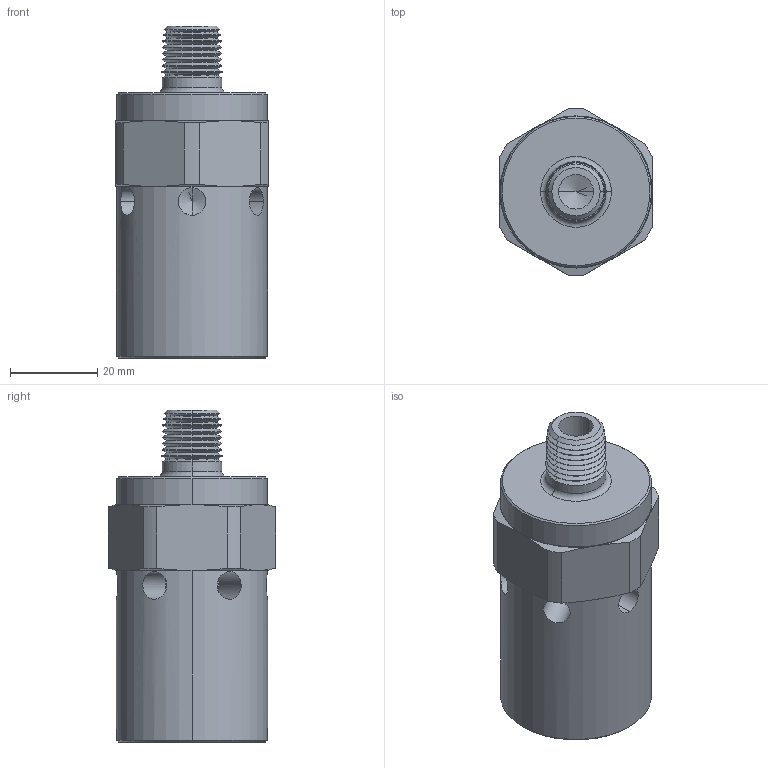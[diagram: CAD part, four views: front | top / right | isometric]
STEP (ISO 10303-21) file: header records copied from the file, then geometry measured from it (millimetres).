
FILE_DESCRIPTION (( 'STEP AP203' ), '1' );
FILE_NAME ('APRVA-250-FS-15.2.STEP', '2021-06-01T11:52:44', ( '' ), ( '' ), 'SwSTEP 2.0', 'SolidWorks 2020', '' );
FILE_SCHEMA (( 'CONFIG_CONTROL_DESIGN' ));
Length unit declared in the file: inch
Products named in the file (2): APRVA-250-FS-15.2; Part1^APRVA-250-FS-15.2_CM
Assembly tree (1 placements, depth 2):
  APRVA-250-FS-15.2
    Part1^APRVA-250-FS-15.2_CM
Bounding box: 34.92 x 38.46 x 76.2 mm (x, y, z)
Volume: 58244.5 mm3; surface area: 11376.3 mm2
Topology: 1 solids, 1 shells, 146 faces, 318 edges, 169 vertices
Faces by surface type: cone 100, cylinder 32, plane 12, torus 2
Entity records: 4410 total; most frequent: CARTESIAN_POINT 1123, DIRECTION 702, ORIENTED_EDGE 600, EDGE_CURVE 300, AXIS2_PLACEMENT_3D 288, VERTEX_POINT 169, EDGE_LOOP 159, FACE_OUTER_BOUND 146
